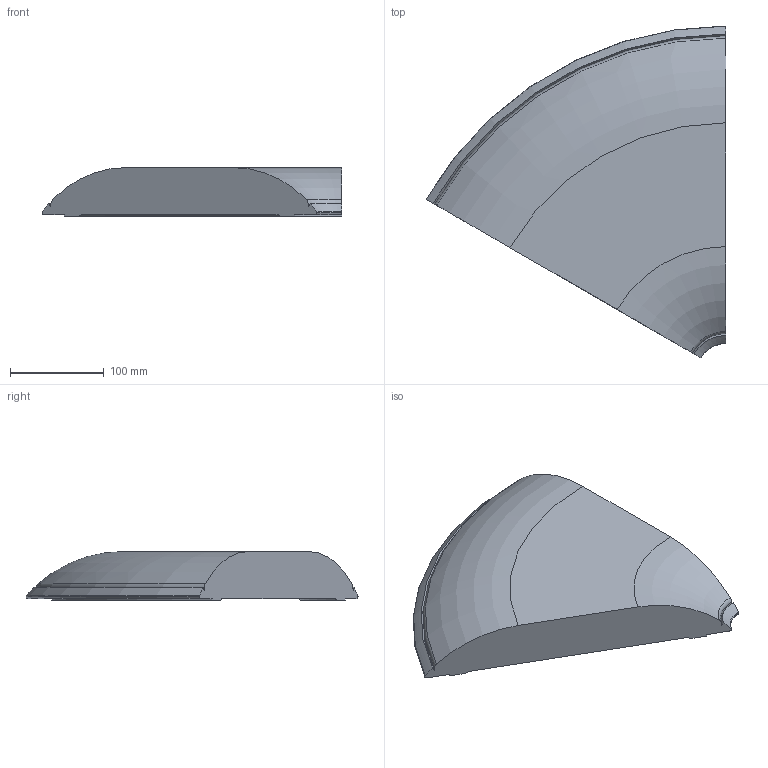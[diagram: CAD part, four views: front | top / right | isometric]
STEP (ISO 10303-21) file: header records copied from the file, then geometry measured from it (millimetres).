
FILE_DESCRIPTION(/* description */ ('Unknown'),/* implementation_level */ '2;1');
FILE_NAME(/* name */ '3D_Footsie_Corner60deg',/* time_stamp */ '2024-01-11T11:43:23+01:00',/* author */ ('Unknown'),/* organization */ ('Unknown'),/* preprocessor_version */ 'ST-DEVELOPER v18.104',/* originating_system */ 'Solid Edge',/* authorisation */ 'Unknown');
FILE_SCHEMA (('AUTOMOTIVE_DESIGN {1 0 10303 214 3 1 1}'));
Length unit declared in the file: millimetre
Products named in the file (1): 3D_Footsie_Corner60deg
Bounding box: 319.81 x 353.92 x 52 mm (x, y, z)
Volume: 2932172.3 mm3; surface area: 179907.1 mm2
Topology: 1 solids, 1 shells, 26 faces, 72 edges, 48 vertices
Faces by surface type: torus 12, plane 8, cone 4, cylinder 2
Entity records: 894 total; most frequent: DIRECTION 174, CARTESIAN_POINT 147, ORIENTED_EDGE 144, AXIS2_PLACEMENT_3D 75, EDGE_CURVE 72, VERTEX_POINT 48, CIRCLE 48, EDGE_LOOP 26
